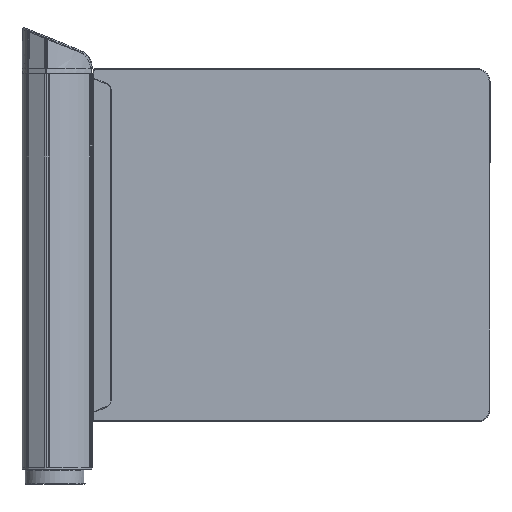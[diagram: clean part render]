
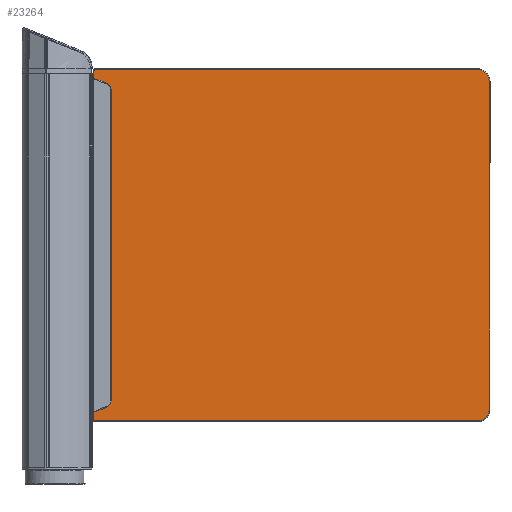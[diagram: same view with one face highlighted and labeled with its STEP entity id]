
A CAD part, left-side view. The second image highlights one B-rep face of the part: STEP entity #23264.
In plain terms, the highlighted planar face has unit normal (-1, 0, 0) as drawn and (0, -1, 0) by its records, which use the part's own axes.
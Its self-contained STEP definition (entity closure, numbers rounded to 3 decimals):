
#622=PLANE('',#25144);
#2106=LINE('',#38776,#3369);
#2110=LINE('',#38793,#3373);
#2114=LINE('',#38800,#3377);
#2118=LINE('',#38817,#3381);
#2122=LINE('',#38824,#3385);
#2126=LINE('',#38841,#3389);
#2130=LINE('',#38848,#3393);
#2134=LINE('',#38863,#3397);
#3369=VECTOR('',#29479,1000.);
#3373=VECTOR('',#29497,1000.);
#3377=VECTOR('',#29503,1000.);
#3381=VECTOR('',#29521,1000.);
#3385=VECTOR('',#29527,1000.);
#3389=VECTOR('',#29545,1000.);
#3393=VECTOR('',#29551,1000.);
#3397=VECTOR('',#29569,1000.);
#7998=ORIENTED_EDGE('',*,*,#11030,.F.);
#7999=ORIENTED_EDGE('',*,*,#11028,.F.);
#8000=ORIENTED_EDGE('',*,*,#11026,.F.);
#8001=ORIENTED_EDGE('',*,*,#11024,.F.);
#8002=ORIENTED_EDGE('',*,*,#10937,.T.);
#8003=ORIENTED_EDGE('',*,*,#10931,.T.);
#8004=ORIENTED_EDGE('',*,*,#10933,.T.);
#8005=ORIENTED_EDGE('',*,*,#10939,.T.);
#8006=ORIENTED_EDGE('',*,*,#10945,.T.);
#8007=ORIENTED_EDGE('',*,*,#10951,.T.);
#8008=ORIENTED_EDGE('',*,*,#10957,.T.);
#8009=ORIENTED_EDGE('',*,*,#10963,.T.);
#8010=ORIENTED_EDGE('',*,*,#10969,.T.);
#8011=ORIENTED_EDGE('',*,*,#10975,.T.);
#8012=ORIENTED_EDGE('',*,*,#10973,.T.);
#8013=ORIENTED_EDGE('',*,*,#10967,.T.);
#8014=ORIENTED_EDGE('',*,*,#10961,.F.);
#8015=ORIENTED_EDGE('',*,*,#10955,.T.);
#8016=ORIENTED_EDGE('',*,*,#10949,.F.);
#8017=ORIENTED_EDGE('',*,*,#10943,.T.);
#10931=EDGE_CURVE('',#12880,#12883,#2106,.T.);
#10933=EDGE_CURVE('',#12883,#12885,#13895,.T.);
#10937=EDGE_CURVE('',#12886,#12880,#13898,.T.);
#10939=EDGE_CURVE('',#12885,#12889,#2110,.T.);
#10943=EDGE_CURVE('',#12890,#12886,#2114,.T.);
#10945=EDGE_CURVE('',#12889,#12893,#13899,.T.);
#10949=EDGE_CURVE('',#12890,#12894,#13902,.T.);
#10951=EDGE_CURVE('',#12893,#12897,#2118,.T.);
#10955=EDGE_CURVE('',#12898,#12894,#2122,.T.);
#10957=EDGE_CURVE('',#12897,#12901,#13903,.T.);
#10961=EDGE_CURVE('',#12898,#12902,#13906,.T.);
#10963=EDGE_CURVE('',#12901,#12905,#2126,.T.);
#10967=EDGE_CURVE('',#12906,#12902,#2130,.T.);
#10969=EDGE_CURVE('',#12905,#12909,#13907,.T.);
#10973=EDGE_CURVE('',#12910,#12906,#13910,.T.);
#10975=EDGE_CURVE('',#12909,#12910,#2134,.T.);
#11024=EDGE_CURVE('',#12944,#12944,#13927,.T.);
#11026=EDGE_CURVE('',#12946,#12946,#13929,.T.);
#11028=EDGE_CURVE('',#12948,#12948,#13931,.T.);
#11030=EDGE_CURVE('',#12950,#12950,#13933,.T.);
#12880=VERTEX_POINT('',#38770);
#12883=VERTEX_POINT('',#38775);
#12885=VERTEX_POINT('',#38780);
#12886=VERTEX_POINT('',#38785);
#12889=VERTEX_POINT('',#38792);
#12890=VERTEX_POINT('',#38797);
#12893=VERTEX_POINT('',#38804);
#12894=VERTEX_POINT('',#38809);
#12897=VERTEX_POINT('',#38816);
#12898=VERTEX_POINT('',#38821);
#12901=VERTEX_POINT('',#38828);
#12902=VERTEX_POINT('',#38833);
#12905=VERTEX_POINT('',#38840);
#12906=VERTEX_POINT('',#38845);
#12909=VERTEX_POINT('',#38852);
#12910=VERTEX_POINT('',#38857);
#12944=VERTEX_POINT('',#38962);
#12946=VERTEX_POINT('',#38967);
#12948=VERTEX_POINT('',#38972);
#12950=VERTEX_POINT('',#38977);
#13895=CIRCLE('',#25058,3.);
#13898=CIRCLE('',#25062,8.);
#13899=CIRCLE('',#25066,28.);
#13902=CIRCLE('',#25070,12.);
#13903=CIRCLE('',#25074,28.);
#13906=CIRCLE('',#25078,12.);
#13907=CIRCLE('',#25082,3.);
#13910=CIRCLE('',#25086,8.);
#13927=CIRCLE('',#25121,6.);
#13929=CIRCLE('',#25124,6.);
#13931=CIRCLE('',#25127,6.);
#13933=CIRCLE('',#25130,6.);
#15257=EDGE_LOOP('',(#7998));
#15258=EDGE_LOOP('',(#7999));
#15259=EDGE_LOOP('',(#8000));
#15260=EDGE_LOOP('',(#8001));
#15261=EDGE_LOOP('',(#8002,#8003,#8004,#8005,#8006,#8007,#8008,#8009,#8010,
#8011,#8012,#8013,#8014,#8015,#8016,#8017));
#16649=FACE_BOUND('',#15257,.T.);
#16650=FACE_BOUND('',#15258,.T.);
#16651=FACE_BOUND('',#15259,.T.);
#16652=FACE_BOUND('',#15260,.T.);
#16653=FACE_BOUND('',#15261,.T.);
#23264=ADVANCED_FACE('',(#16649,#16650,#16651,#16652,#16653),#622,.T.);
#25058=AXIS2_PLACEMENT_3D('',#38781,#29483,#29484);
#25062=AXIS2_PLACEMENT_3D('',#38788,#29492,#29493);
#25066=AXIS2_PLACEMENT_3D('',#38805,#29507,#29508);
#25070=AXIS2_PLACEMENT_3D('',#38812,#29516,#29517);
#25074=AXIS2_PLACEMENT_3D('',#38829,#29531,#29532);
#25078=AXIS2_PLACEMENT_3D('',#38836,#29540,#29541);
#25082=AXIS2_PLACEMENT_3D('',#38853,#29555,#29556);
#25086=AXIS2_PLACEMENT_3D('',#38860,#29564,#29565);
#25121=AXIS2_PLACEMENT_3D('',#38961,#29668,#29669);
#25124=AXIS2_PLACEMENT_3D('',#38966,#29674,#29675);
#25127=AXIS2_PLACEMENT_3D('',#38971,#29680,#29681);
#25130=AXIS2_PLACEMENT_3D('',#38976,#29686,#29687);
#25144=AXIS2_PLACEMENT_3D('',#39008,#29730,#29731);
#29479=DIRECTION('',(0.,0.,-1.));
#29483=DIRECTION('',(0.,-1.,0.));
#29484=DIRECTION('',(0.,0.,-1.));
#29492=DIRECTION('',(0.,-1.,0.));
#29493=DIRECTION('',(0.,0.,-1.));
#29497=DIRECTION('',(1.,0.,0.));
#29503=DIRECTION('',(-0.707,0.,-0.707));
#29507=DIRECTION('',(0.,-1.,0.));
#29508=DIRECTION('',(0.,0.,-1.));
#29516=DIRECTION('',(0.,-1.,0.));
#29517=DIRECTION('',(0.,0.,-1.));
#29521=DIRECTION('',(0.,0.,1.));
#29527=DIRECTION('',(0.,0.,-1.));
#29531=DIRECTION('',(0.,-1.,0.));
#29532=DIRECTION('',(0.,0.,-1.));
#29540=DIRECTION('',(0.,-1.,0.));
#29541=DIRECTION('',(0.,0.,-1.));
#29545=DIRECTION('',(-1.,0.,0.));
#29551=DIRECTION('',(0.707,0.,-0.707));
#29555=DIRECTION('',(0.,-1.,0.));
#29556=DIRECTION('',(0.,0.,-1.));
#29564=DIRECTION('',(0.,-1.,0.));
#29565=DIRECTION('',(0.,0.,-1.));
#29569=DIRECTION('',(0.,0.,-1.));
#29668=DIRECTION('',(0.,-1.,0.));
#29669=DIRECTION('',(1.,0.,0.));
#29674=DIRECTION('',(0.,-1.,0.));
#29675=DIRECTION('',(1.,0.,0.));
#29680=DIRECTION('',(0.,-1.,0.));
#29681=DIRECTION('',(1.,0.,0.));
#29686=DIRECTION('',(0.,-1.,0.));
#29687=DIRECTION('',(1.,0.,0.));
#29730=DIRECTION('',(0.,-1.,0.));
#29731=DIRECTION('',(0.,0.,-1.));
#38770=CARTESIAN_POINT('',(2.,-5.,-389.142));
#38775=CARTESIAN_POINT('',(2.,-5.,-417.));
#38776=CARTESIAN_POINT('',(2.,-5.,-417.));
#38780=CARTESIAN_POINT('',(5.,-5.,-420.));
#38781=CARTESIAN_POINT('',(5.,-5.,-417.));
#38785=CARTESIAN_POINT('',(4.343,-5.,-383.485));
#38788=CARTESIAN_POINT('',(10.,-5.,-389.142));
#38792=CARTESIAN_POINT('',(919.,-5.,-420.));
#38793=CARTESIAN_POINT('',(919.,-5.,-420.));
#38797=CARTESIAN_POINT('',(7.485,-5.,-380.343));
#38800=CARTESIAN_POINT('',(4.343,-5.,-383.485));
#38804=CARTESIAN_POINT('',(947.,-5.,-392.));
#38805=CARTESIAN_POINT('',(919.,-5.,-392.));
#38809=CARTESIAN_POINT('',(11.,-5.,-371.858));
#38812=CARTESIAN_POINT('',(-1.,-5.,-371.858));
#38816=CARTESIAN_POINT('',(947.,-5.,392.));
#38817=CARTESIAN_POINT('',(947.,-5.,392.));
#38821=CARTESIAN_POINT('',(11.,-5.,371.858));
#38824=CARTESIAN_POINT('',(11.,-5.,-371.858));
#38828=CARTESIAN_POINT('',(919.,-5.,420.));
#38829=CARTESIAN_POINT('',(919.,-5.,392.));
#38833=CARTESIAN_POINT('',(7.485,-5.,380.343));
#38836=CARTESIAN_POINT('',(-1.,-5.,371.858));
#38840=CARTESIAN_POINT('',(5.,-5.,420.));
#38841=CARTESIAN_POINT('',(5.,-5.,420.));
#38845=CARTESIAN_POINT('',(4.343,-5.,383.485));
#38848=CARTESIAN_POINT('',(7.485,-5.,380.343));
#38852=CARTESIAN_POINT('',(2.,-5.,417.));
#38853=CARTESIAN_POINT('',(5.,-5.,417.));
#38857=CARTESIAN_POINT('',(2.,-5.,389.142));
#38860=CARTESIAN_POINT('',(10.,-5.,389.142));
#38863=CARTESIAN_POINT('',(2.,-5.,389.142));
#38961=CARTESIAN_POINT('',(35.,-5.,-325.));
#38962=CARTESIAN_POINT('',(41.,-5.,-325.));
#38966=CARTESIAN_POINT('',(35.,-5.,-275.));
#38967=CARTESIAN_POINT('',(41.,-5.,-275.));
#38971=CARTESIAN_POINT('',(35.,-5.,275.));
#38972=CARTESIAN_POINT('',(41.,-5.,275.));
#38976=CARTESIAN_POINT('',(35.,-5.,325.));
#38977=CARTESIAN_POINT('',(41.,-5.,325.));
#39008=CARTESIAN_POINT('',(0.,-5.,0.));
